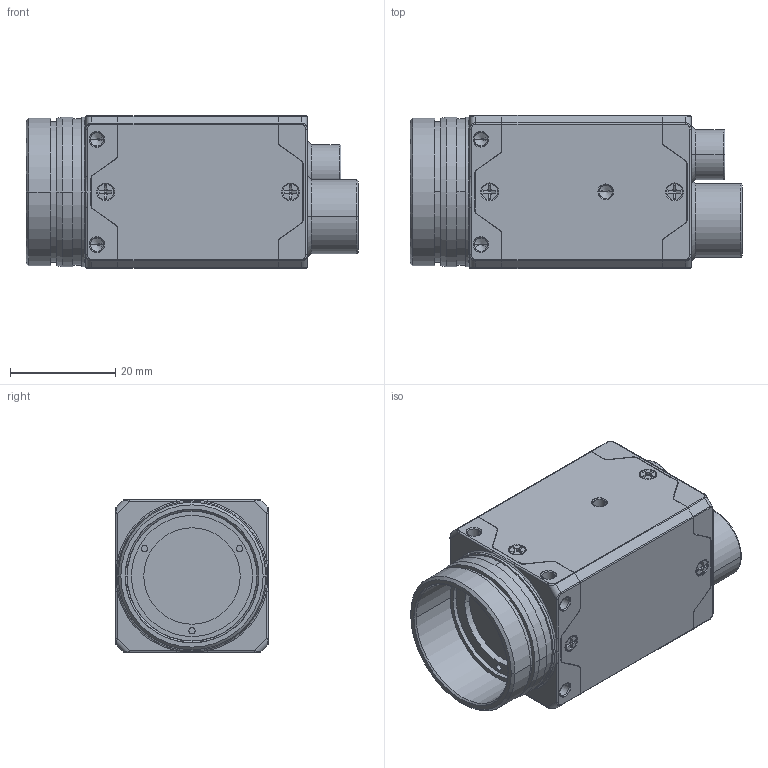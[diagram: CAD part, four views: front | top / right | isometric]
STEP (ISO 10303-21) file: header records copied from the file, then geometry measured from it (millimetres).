
FILE_DESCRIPTION((''),'2;1');
FILE_NAME('00-MV-CT050G-24GMC01-PRO_ASM','2025-06-16T07:36:26',('xujianping6'),(''),'CREO PARAMETRIC BY PTC INC, 2020044','CREO PARAMETRIC BY PTC INC, 2020044','');
FILE_SCHEMA(('CONFIG_CONTROL_DESIGN'));
Products named in the file (18): DE-14-074746; LVGUANGPIAN; DE-14-073518; MV-20575-REV11_ASM; QIANDUANZUJIAN-NEW_ASM; DE-14-074747; WAIKEZUJIAN-NEW_ASM; DE-14-074748; D-01-35-26-0837; SC-T1M2X4NL-B; PCB-MV-23517-REV10; SGN-M12-NEW3-20241128; SGN-M8-NEWS5-20241205; MV-23517-REV10_ASM; MV-ZHUBAN-REV10_ASM; HOUGAIZUJIAN-NEW_ASM; DE-1F-000047; 00-MV-CT050G-24GMC01-PRO_ASM
Assembly tree (24 placements, depth 5):
  00-MV-CT050G-24GMC01-PRO_ASM
    QIANDUANZUJIAN-NEW_ASM
      DE-14-074746
      LVGUANGPIAN
      DE-14-073518
      MV-20575-REV11_ASM
    WAIKEZUJIAN-NEW_ASM
      DE-14-074747
    HOUGAIZUJIAN-NEW_ASM
      DE-14-074748
      D-01-35-26-0837
      SC-T1M2X4NL-B
      MV-ZHUBAN-REV10_ASM
        MV-23517-REV10_ASM
          PCB-MV-23517-REV10
          SGN-M12-NEW3-20241128
          SGN-M8-NEWS5-20241205
    DE-1F-000047  x8
Bounding box: 63.01 x 29 x 29 mm (x, y, z)
Volume: 17074.7 mm3; surface area: 26427.2 mm2
Topology: 18 solids, 82 shells, 2863 faces, 7461 edges, 4755 vertices
Faces by surface type: plane 1182, cylinder 1161, cone 356, torus 94, bspline 64, sphere 6
Entity records: 85580 total; most frequent: CARTESIAN_POINT 20497, DIRECTION 14216, ORIENTED_EDGE 13258, EDGE_CURVE 6693, AXIS2_PLACEMENT_3D 5470, VERTEX_POINT 4342, VECTOR 3276, LINE 3276
